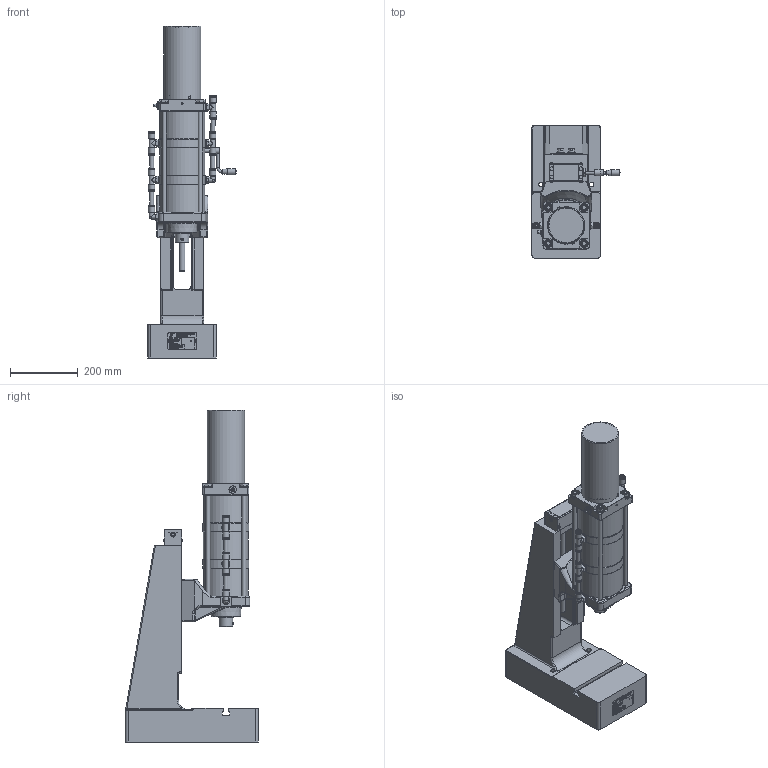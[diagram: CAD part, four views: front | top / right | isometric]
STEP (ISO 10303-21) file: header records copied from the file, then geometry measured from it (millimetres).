
FILE_DESCRIPTION(/* description */ ('Bausatz Ständer T4N HV-OST'),/* implementation_level */ '2;1');
FILE_NAME(/* name */ 'B:\02_CAD_oeffentlich\CAD_3D_oeffentlich_step\Druckluftpresse\DRP_2100_040_130.stp',/* time_stamp */ '2017-08-25T10:13:15+02:00',/* author */ ('Finsterle'),/* organization */ (''),/* preprocessor_version */ 'ST-DEVELOPER v16.1',/* originating_system */ 'Autodesk Inventor 2016',/* authorisation */ '');
FILE_SCHEMA (('AUTOMOTIVE_DESIGN { 1 0 10303 214 3 1 1 }'));
Products named in the file (5): ENG-000753-1_V; ENG-001142_V; HBF-000760; ENG-000755; HBF-001070_V
Assembly tree (5 placements, depth 2):
  HBF-001070_V
    ENG-000753-1_V
    ENG-001142_V
    HBF-000760
    ENG-000755  x2
Bounding box: 259.79 x 393.8 x 979.96 mm (x, y, z)
Volume: 13213635.9 mm3; surface area: 1751807.3 mm2
Topology: 6 solids, 28 shells, 7816 faces, 20947 edges, 13669 vertices
Faces by surface type: plane 4664, bspline 2114, cylinder 570, cone 247, torus 146, sphere 75
Full cylindrical faces by diameter (mm): 1 x1, 2 x1, 2.4 x3, 2.459 x2, 3 x6, 3.242 x7, 3.5 x2, 3.65 x4, 4 x5, 4.134 x1, 4.2 x2, 4.5 x4, 4.917 x6, 5 x3, 6.2 x4, 6.5 x2, 6.647 x1, 8 x5, 8.4 x1, 8.5 x2, 9 x4, 10 x3, 10.02 x1, 10.5 x4, 11.5 x8, 11.8 x2, 12 x24, 12.5 x4, 13 x20, 13.5 x4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
Entity records: 263340 total; most frequent: CARTESIAN_POINT 77630, ORIENTED_EDGE 40332, DIRECTION 28689, EDGE_CURVE 20141, LINE 13957, VECTOR 13957, VERTEX_POINT 13506, EDGE_LOOP 9029
